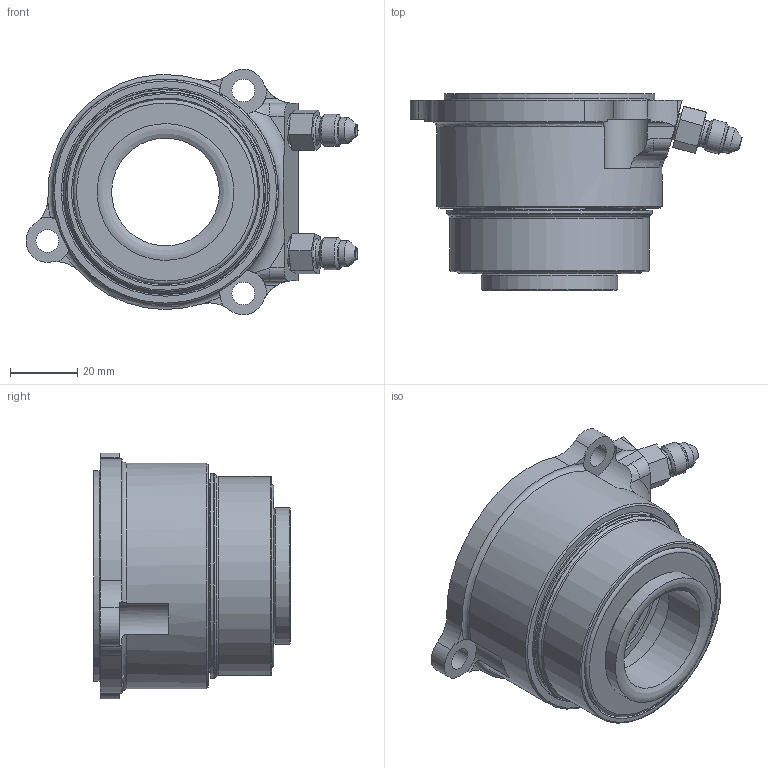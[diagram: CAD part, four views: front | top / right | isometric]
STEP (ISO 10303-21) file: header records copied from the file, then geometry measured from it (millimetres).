
FILE_DESCRIPTION(/* description */ ('Unknown'),/* implementation_level */ '2;1');
FILE_NAME(/* name */ 'TILTON 60-1340, SIMPLIFIED',/* time_stamp */ '2024-08-15T05:30:39-07:00',/* author */ ('Unknown'),/* organization */ ('Unknown'),/* preprocessor_version */ 'ST-DEVELOPER v18.104',/* originating_system */ 'Solid Edge',/* authorisation */ 'Unknown');
FILE_SCHEMA (('AUTOMOTIVE_DESIGN {1 0 10303 214 3 1 1}'));
Length unit declared in the file: millimetre
Products named in the file (1): TILTON 60-1340, SIMPLIFIED
Bounding box: 98.64 x 58.49 x 72.99 mm (x, y, z)
Volume: 117177.8 mm3; surface area: 38514.7 mm2
Topology: 1 solids, 3 shells, 180 faces, 442 edges, 291 vertices
Faces by surface type: plane 63, cylinder 56, torus 31, cone 28, bspline 2
Full cylindrical faces by diameter (mm): 3.175 x4, 6.756 x3, 7.734 x2, 7.925 x4, 8.379 x2, 9.525 x2, 32.004 x1, 35.001 x2, 38.1 x1, 40.64 x1, 42.926 x1, 47.714 x1, 54.737 x1, 54.991 x1, 54.997 x1, 57.061 x1, 57.912 x1, 59.182 x1, 60.96 x1, 61.925 x1, 62.512 x1, 64.77 x1, 64.922 x1, 67.056 x1
Entity records: 6284 total; most frequent: CARTESIAN_POINT 1338, DIRECTION 810, ORIENTED_EDGE 588, AXIS2_PLACEMENT_3D 365, FACE_BOUND 309, EDGE_LOOP 307, EDGE_CURVE 294, VERTEX_POINT 237
